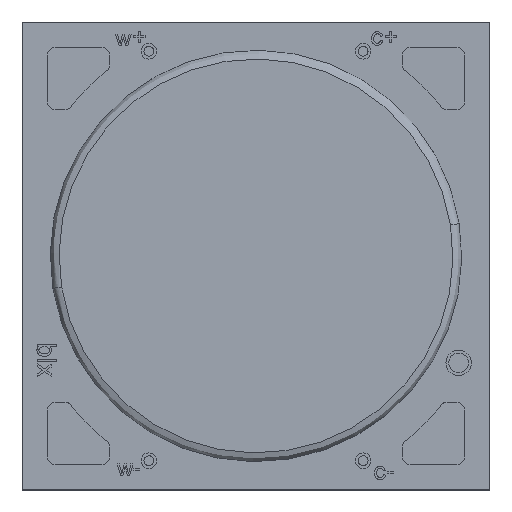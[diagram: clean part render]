
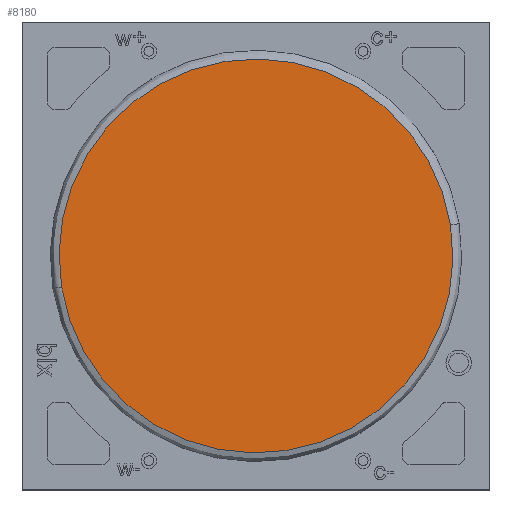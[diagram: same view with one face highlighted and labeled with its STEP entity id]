
A CAD part, top view. The second image highlights one B-rep face of the part: STEP entity #8180.
In plain terms, the highlighted planar face has unit normal (0, 0, 1).
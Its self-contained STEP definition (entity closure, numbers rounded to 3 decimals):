
#28 = DIRECTION ( 'NONE',  ( 0.988, 0.157, 0. ) ) ;
#777 = EDGE_CURVE ( 'NONE', #8089, #2488, #8014, .T. ) ;
#1796 = CARTESIAN_POINT ( 'NONE',  ( 5.964, 1.941, 25.15 ) ) ;
#2488 = VERTEX_POINT ( 'NONE', #8514 ) ;
#2556 = CARTESIAN_POINT ( 'NONE',  ( 5.964, 1.941, 25.15 ) ) ;
#2805 = CARTESIAN_POINT ( 'NONE',  ( -4.01, 0.351, 25.15 ) ) ;
#3048 = ORIENTED_EDGE ( 'NONE', *, *, #3213, .T. ) ;
#3213 = EDGE_CURVE ( 'NONE', #2488, #8089, #6149, .T. ) ;
#3223 = DIRECTION ( 'NONE',  ( 0.988, 0.157, 0. ) ) ;
#3487 = DIRECTION ( 'NONE',  ( 0., 0., 1. ) ) ;
#4067 = DIRECTION ( 'NONE',  ( 0., 0., 1. ) ) ;
#5144 = AXIS2_PLACEMENT_3D ( 'NONE', #2556, #7320, #3223 ) ;
#5534 = ORIENTED_EDGE ( 'NONE', *, *, #777, .T. ) ;
#6149 = CIRCLE ( 'NONE', #7180, 10.1 ) ;
#6755 = FACE_OUTER_BOUND ( 'NONE', #6958, .T. ) ;
#6958 = EDGE_LOOP ( 'NONE', ( #5534, #3048 ) ) ;
#7180 = AXIS2_PLACEMENT_3D ( 'NONE', #8169, #4067, #28 ) ;
#7291 = PLANE ( 'NONE',  #5144 ) ;
#7320 = DIRECTION ( 'NONE',  ( 0., 0., 1. ) ) ;
#7660 = AXIS2_PLACEMENT_3D ( 'NONE', #2805, #3487, #8269 ) ;
#8014 = CIRCLE ( 'NONE', #7660, 10.1 ) ;
#8089 = VERTEX_POINT ( 'NONE', #1796 ) ;
#8169 = CARTESIAN_POINT ( 'NONE',  ( -4.01, 0.351, 25.15 ) ) ;
#8180 = ADVANCED_FACE ( 'NONE', ( #6755 ), #7291, .T. ) ;
#8269 = DIRECTION ( 'NONE',  ( 0.988, 0.157, 0. ) ) ;
#8514 = CARTESIAN_POINT ( 'NONE',  ( -13.984, -1.24, 25.15 ) ) ;
